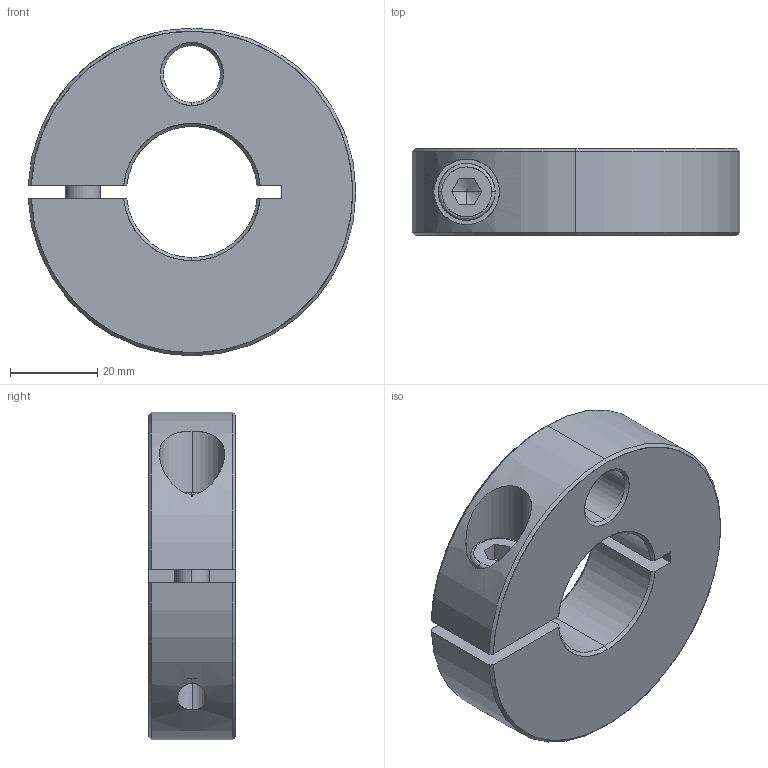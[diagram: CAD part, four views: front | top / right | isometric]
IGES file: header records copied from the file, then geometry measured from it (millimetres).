
Start section: SolidWorks IGES FILE using analytic representation for surfaces
Global section: file name: C:\WIX2\Positioning\3865\3865W030.igs; native system: SolidWorks 2003 by SolidWorks Corporation; preprocessor: Version 5.3; author: Joan; date: 030722.172934; units: millimetre
Bounding box: 74.97 x 20 x 75 mm (x, y, z)
Surface area: 17959 mm2 (no closed solid volume)
Topology: 0 solids, 0 shells, 66 faces, 1020 edges, 1017 vertices
Faces by surface type: revolution 46, bspline 20
